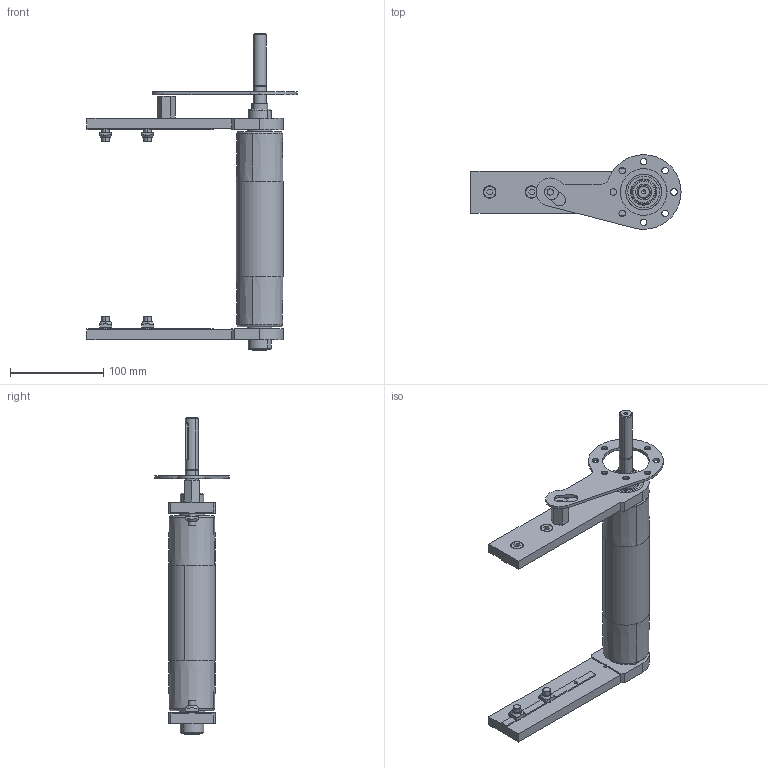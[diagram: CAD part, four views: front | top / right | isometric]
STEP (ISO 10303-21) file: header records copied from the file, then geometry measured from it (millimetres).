
FILE_DESCRIPTION (( 'STEP AP203' ), '1' );
FILE_NAME ('084.050.KD.30.185.STEP', '2017-01-31T10:13:12', ( 'Localadmin' ), ( 'Microsoft' ), 'SwSTEP 2.0', 'SolidWorks 2016', '' );
FILE_SCHEMA (( 'CONFIG_CONTROL_DESIGN' ));
Length unit declared in the file: millimetre
Products named in the file (1): 084.050.KD.30.185
Bounding box: 225 x 80 x 338.5 mm (x, y, z)
Volume: 420583.1 mm3; surface area: 216671.7 mm2
Topology: 21 solids, 23 shells, 610 faces, 1525 edges, 989 vertices
Faces by surface type: plane 258, cylinder 225, torus 68, cone 51, sphere 8
Entity records: 19014 total; most frequent: CARTESIAN_POINT 3778, DIRECTION 3397, ORIENTED_EDGE 3010, EDGE_CURVE 1505, AXIS2_PLACEMENT_3D 1350, VERTEX_POINT 979, CIRCLE 739, EDGE_LOOP 724
